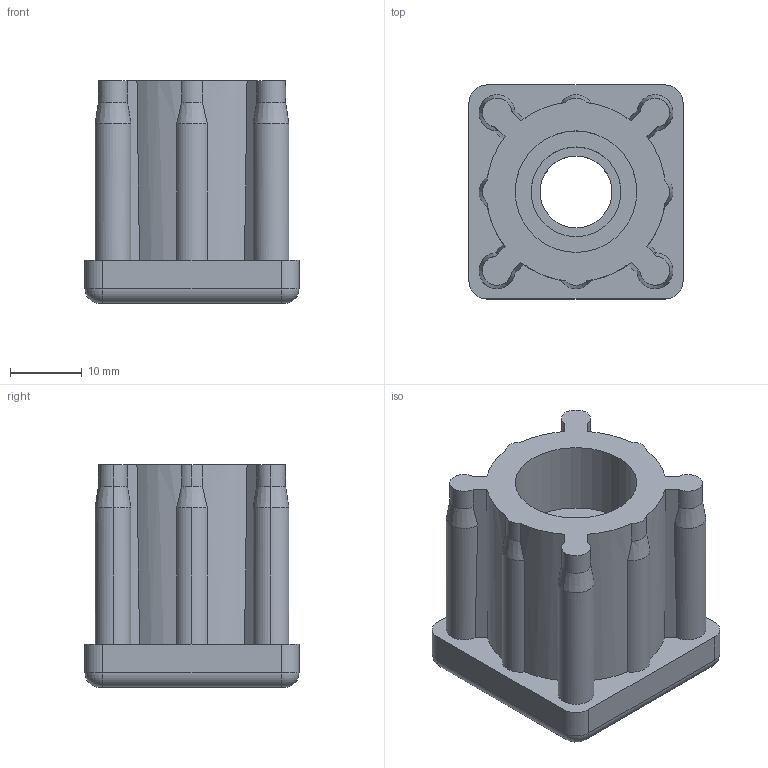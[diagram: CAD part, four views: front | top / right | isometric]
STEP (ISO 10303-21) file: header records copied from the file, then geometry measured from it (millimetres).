
FILE_DESCRIPTION (( 'STEP AP214' ), '1' );
FILE_NAME ('42006830210.STEP', '2020-02-25T17:30:52', ( '' ), ( '' ), 'SwSTEP 2.0', 'SolidWorks 2018', '' );
FILE_SCHEMA (( 'AUTOMOTIVE_DESIGN' ));
Length unit declared in the file: millimetre
Products named in the file (1): 42006830210
Bounding box: 29.8 x 29.8 x 31 mm (x, y, z)
Volume: 15446 mm3; surface area: 7697.2 mm2
Topology: 2 solids, 2 shells, 98 faces, 251 edges, 160 vertices
Faces by surface type: cylinder 54, cone 21, plane 19, torus 4
Entity records: 3085 total; most frequent: CARTESIAN_POINT 673, DIRECTION 517, ORIENTED_EDGE 502, EDGE_CURVE 251, AXIS2_PLACEMENT_3D 215, VERTEX_POINT 160, CIRCLE 116, EDGE_LOOP 105
